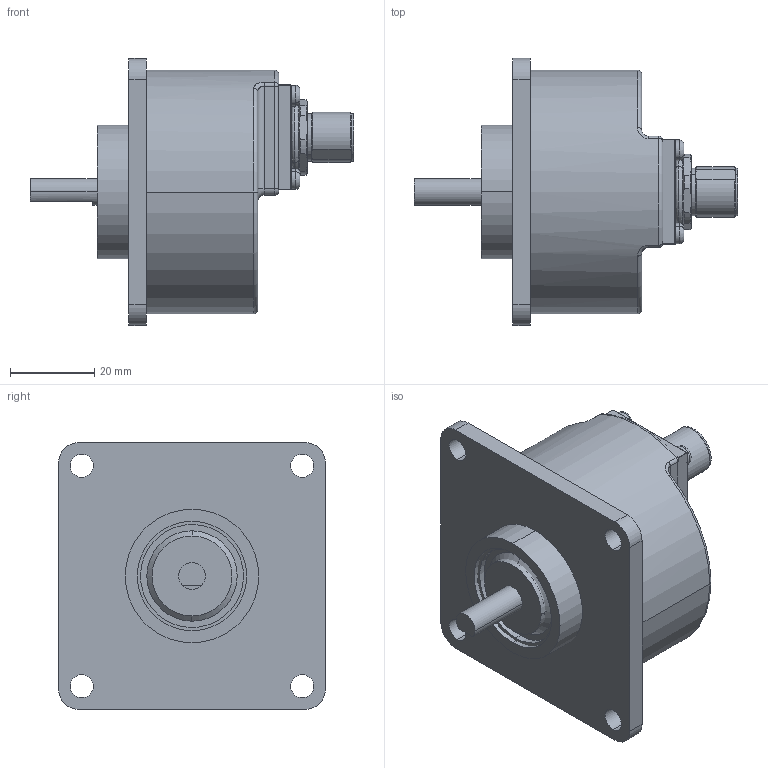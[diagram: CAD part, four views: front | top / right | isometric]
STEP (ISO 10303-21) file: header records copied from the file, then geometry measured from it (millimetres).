
FILE_DESCRIPTION (( 'STEP AP203' ), '1' );
FILE_NAME ('K58I.OXX.XXXXX.XS1Q51A.6XAC6.step', '2025-12-08T16:25:04', ( '' ), ( '' ), 'SwSTEP 2.0', 'SolidWorks 2021', '' );
FILE_SCHEMA (( 'CONFIG_CONTROL_DESIGN' ));
Length unit declared in the file: millimetre
Products named in the file (1): K58I.OXX.XXXXX.XS1Q51A.6XAC6
Bounding box: 76.86 x 63.5 x 63.5 mm (x, y, z)
Surface area: 31261.4 mm2 (no closed solid volume)
Topology: 0 solids, 11 shells, 323 faces, 771 edges, 493 vertices
Faces by surface type: cylinder 168, plane 96, bspline 26, cone 23, torus 8, sphere 2
Entity records: 11350 total; most frequent: CARTESIAN_POINT 3693, DIRECTION 1682, ORIENTED_EDGE 1526, EDGE_CURVE 771, AXIS2_PLACEMENT_3D 700, VERTEX_POINT 493, CIRCLE 402, EDGE_LOOP 366
